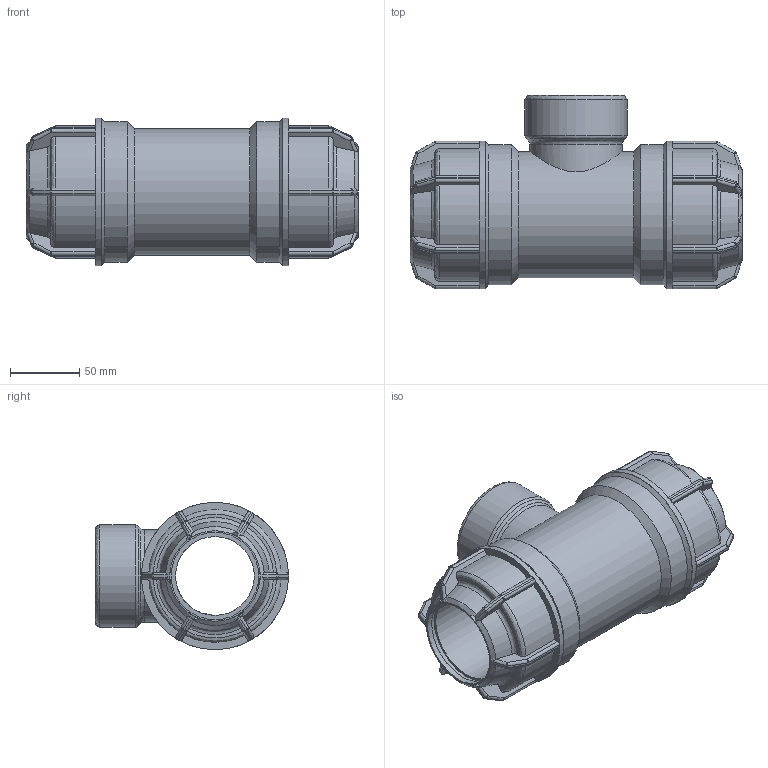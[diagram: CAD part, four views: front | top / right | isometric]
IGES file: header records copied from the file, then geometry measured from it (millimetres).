
Global section: file name: 141400063020.ipt; native system: Autodesk Inventor 2015; preprocessor: unknown; author: KIM; date: 20180416.111614; units: millimetre
Bounding box: 239 x 139 x 106 mm (x, y, z)
Volume: 956970.7 mm3; surface area: 151696.2 mm2
Topology: 1 solids, 1 shells, 412 faces, 996 edges, 583 vertices
Faces by surface type: plane 194, cylinder 115, sphere 48, revolution 38, cone 17
Full cylindrical faces by diameter (mm): 66.288 x1, 73.653 x1, 90.72 x1, 100.8 x2, 106 x2
